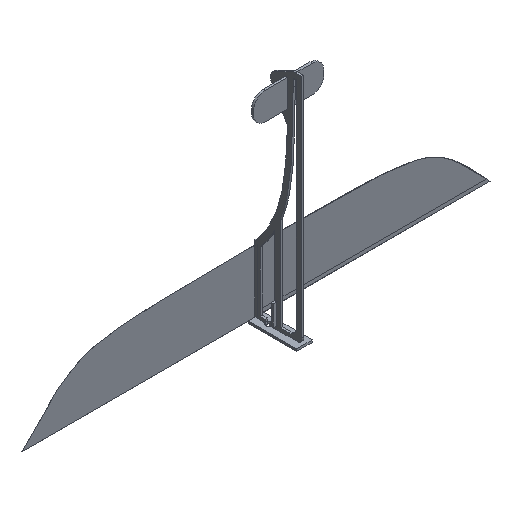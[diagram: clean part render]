
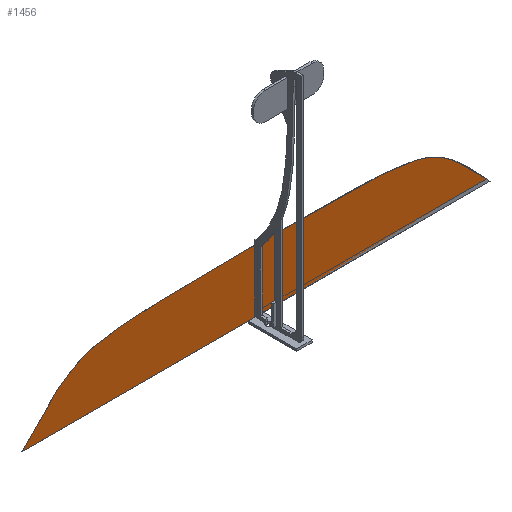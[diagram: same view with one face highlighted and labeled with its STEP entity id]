
A CAD part, isometric view. The second image highlights one B-rep face of the part: STEP entity #1456.
In plain terms, the highlighted planar face has unit normal (0, -1, 0).
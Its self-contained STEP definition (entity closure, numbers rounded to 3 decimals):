
#15=(
BOUNDED_CURVE()
B_SPLINE_CURVE(2,(#2446,#2447,#2448),.UNSPECIFIED.,.F.,.F.)
B_SPLINE_CURVE_WITH_KNOTS((3,3),(0.,0.355),.UNSPECIFIED.)
CURVE()
GEOMETRIC_REPRESENTATION_ITEM()
RATIONAL_B_SPLINE_CURVE((1.,1.022,1.043))
REPRESENTATION_ITEM('')
);
#17=(
BOUNDED_CURVE()
B_SPLINE_CURVE(2,(#2463,#2464,#2465),.UNSPECIFIED.,.F.,.F.)
B_SPLINE_CURVE_WITH_KNOTS((3,3),(0.355,32.407),
 .UNSPECIFIED.)
CURVE()
GEOMETRIC_REPRESENTATION_ITEM()
RATIONAL_B_SPLINE_CURVE((1.043,2.978,1.))
REPRESENTATION_ITEM('')
);
#19=(
BOUNDED_CURVE()
B_SPLINE_CURVE(2,(#2478,#2479,#2480),.UNSPECIFIED.,.F.,.F.)
B_SPLINE_CURVE_WITH_KNOTS((3,3),(0.,32.407),.UNSPECIFIED.)
CURVE()
GEOMETRIC_REPRESENTATION_ITEM()
RATIONAL_B_SPLINE_CURVE((1.,3.,1.))
REPRESENTATION_ITEM('')
);
#21=(
BOUNDED_CURVE()
B_SPLINE_CURVE(5,(#2490,#2491,#2492,#2493,#2494,#2495),.UNSPECIFIED.,.F.,
 .F.)
B_SPLINE_CURVE_WITH_KNOTS((6,6),(0.,0.033),.UNSPECIFIED.)
CURVE()
GEOMETRIC_REPRESENTATION_ITEM()
RATIONAL_B_SPLINE_CURVE((1.,1.,1.,1.,1.,1.))
REPRESENTATION_ITEM('')
);
#22=(
BOUNDED_CURVE()
B_SPLINE_CURVE(5,(#2496,#2497,#2498,#2499,#2500,#2501,#2502,#2503,#2504,
#2505),.UNSPECIFIED.,.F.,.F.)
B_SPLINE_CURVE_WITH_KNOTS((6,1,1,1,1,6),(0.033,0.2,0.4,0.6,
0.8,1.),.UNSPECIFIED.)
CURVE()
GEOMETRIC_REPRESENTATION_ITEM()
RATIONAL_B_SPLINE_CURVE((1.,1.,1.,1.,1.,1.,1.,1.,1.,1.))
REPRESENTATION_ITEM('')
);
#171=FACE_OUTER_BOUND('',#257,.T.);
#257=EDGE_LOOP('',(#1314,#1315,#1316,#1317,#1318,#1319));
#416=LINE('',#2488,#576);
#576=VECTOR('',#1917,10.);
#702=VERTEX_POINT('',#2444);
#703=VERTEX_POINT('',#2445);
#706=VERTEX_POINT('',#2462);
#708=VERTEX_POINT('',#2477);
#710=VERTEX_POINT('',#2487);
#711=VERTEX_POINT('',#2489);
#900=EDGE_CURVE('',#702,#703,#15,.T.);
#904=EDGE_CURVE('',#703,#706,#17,.T.);
#907=EDGE_CURVE('',#708,#706,#19,.T.);
#910=EDGE_CURVE('',#710,#702,#416,.T.);
#911=EDGE_CURVE('',#710,#711,#21,.T.);
#912=EDGE_CURVE('',#711,#708,#22,.T.);
#1314=ORIENTED_EDGE('',*,*,#910,.T.);
#1315=ORIENTED_EDGE('',*,*,#900,.T.);
#1316=ORIENTED_EDGE('',*,*,#904,.T.);
#1317=ORIENTED_EDGE('',*,*,#907,.F.);
#1318=ORIENTED_EDGE('',*,*,#912,.F.);
#1319=ORIENTED_EDGE('',*,*,#911,.F.);
#1378=PLANE('',#1570);
#1456=ADVANCED_FACE('',(#171),#1378,.F.);
#1570=AXIS2_PLACEMENT_3D('',#2526,#1921,#1922);
#1917=DIRECTION('',(1.,0.,0.));
#1921=DIRECTION('center_axis',(0.,1.,0.));
#1922=DIRECTION('ref_axis',(-1.,0.,0.));
#2444=CARTESIAN_POINT('',(301.4,60.,-297.2));
#2445=CARTESIAN_POINT('',(296.924,60.,-292.2));
#2446=CARTESIAN_POINT('Ctrl Pts',(301.4,60.,-297.2));
#2447=CARTESIAN_POINT('Ctrl Pts',(299.108,60.,-294.624));
#2448=CARTESIAN_POINT('Ctrl Pts',(296.924,60.,-292.2));
#2462=CARTESIAN_POINT('',(1.4,60.,-217.2));
#2463=CARTESIAN_POINT('Ctrl Pts',(296.924,60.,-292.2));
#2464=CARTESIAN_POINT('Ctrl Pts',(229.371,60.,-217.2));
#2465=CARTESIAN_POINT('Ctrl Pts',(1.4,60.,-217.2));
#2477=CARTESIAN_POINT('',(-298.6,60.,-297.2));
#2478=CARTESIAN_POINT('Ctrl Pts',(-298.6,60.,-297.2));
#2479=CARTESIAN_POINT('Ctrl Pts',(-227.414,60.,-217.2));
#2480=CARTESIAN_POINT('Ctrl Pts',(1.4,60.,-217.2));
#2487=CARTESIAN_POINT('',(1.4,60.,-297.2));
#2488=CARTESIAN_POINT('',(1.4,60.,-297.2));
#2489=CARTESIAN_POINT('',(-8.6,60.,-297.2));
#2490=CARTESIAN_POINT('Ctrl Pts',(1.4,60.,-297.2));
#2491=CARTESIAN_POINT('Ctrl Pts',(-0.6,60.,-297.2));
#2492=CARTESIAN_POINT('Ctrl Pts',(-2.6,60.,-297.2));
#2493=CARTESIAN_POINT('Ctrl Pts',(-4.6,60.,-297.2));
#2494=CARTESIAN_POINT('Ctrl Pts',(-6.6,60.,-297.2));
#2495=CARTESIAN_POINT('Ctrl Pts',(-8.6,60.,-297.2));
#2496=CARTESIAN_POINT('Ctrl Pts',(-8.6,60.,-297.2));
#2497=CARTESIAN_POINT('Ctrl Pts',(-18.6,60.,-297.2));
#2498=CARTESIAN_POINT('Ctrl Pts',(-40.6,60.,-297.2));
#2499=CARTESIAN_POINT('Ctrl Pts',(-74.6,60.,-297.2));
#2500=CARTESIAN_POINT('Ctrl Pts',(-120.6,60.,-297.2));
#2501=CARTESIAN_POINT('Ctrl Pts',(-178.6,60.,-297.2));
#2502=CARTESIAN_POINT('Ctrl Pts',(-226.6,60.,-297.2));
#2503=CARTESIAN_POINT('Ctrl Pts',(-262.6,60.,-297.2));
#2504=CARTESIAN_POINT('Ctrl Pts',(-286.6,60.,-297.2));
#2505=CARTESIAN_POINT('Ctrl Pts',(-298.6,60.,-297.2));
#2526=CARTESIAN_POINT('Origin',(3.9,60.,-294.7));
